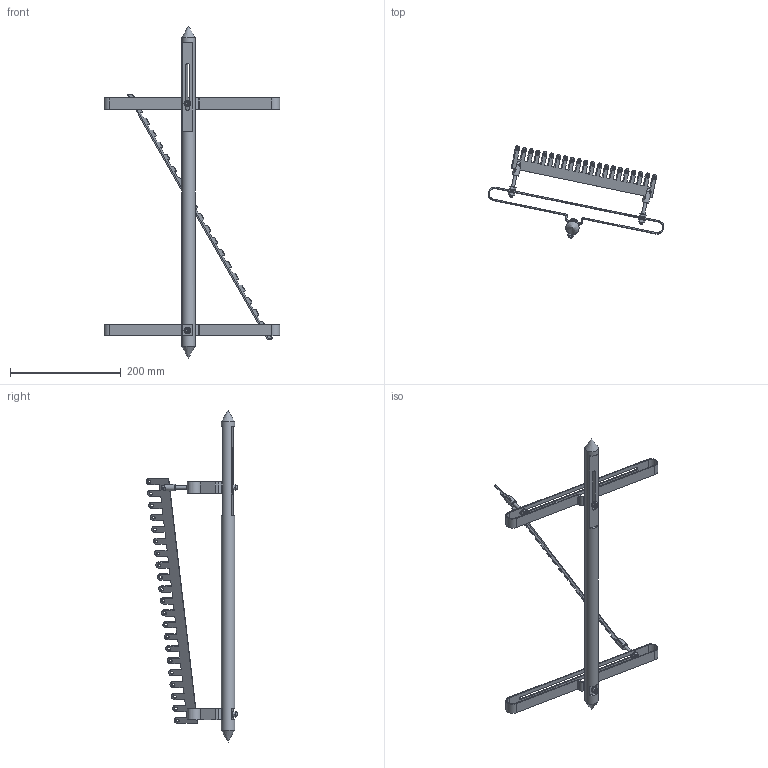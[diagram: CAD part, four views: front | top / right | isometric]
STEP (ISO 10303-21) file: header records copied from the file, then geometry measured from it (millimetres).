
FILE_DESCRIPTION(/* description */ (''),/* implementation_level */ '2;1');
FILE_NAME(/* name */ 'D:\SFC\3-Autodesk\2014-01-30 GrabCAD\23 - Mecanism trasare hiperboloid\Hyperboloid Drawing Mechanism.stp',/* time_stamp */ '2015-04-28T10:32:03+03:00',/* author */ ('SFC'),/* organization */ (''),/* preprocessor_version */ 'ST-DEVELOPER v15.2',/* originating_system */ 'Autodesk Inventor 2014',/* authorisation */ '');
FILE_SCHEMA (('AUTOMOTIVE_DESIGN { 1 0 10303 214 3 1 1 }'));
Length unit declared in the file: millimetre
Products named in the file (9): Multi-hole plate; Threaded rod; Pin; Central Shaft; Adjustable Stand; ISO 7045 - M6 x 30 - 4.8 - HISO; ISO 7090 - 6 - 140 HV(1); ISO 4032 - M6ISO; Hyperboloid Drawing Mechanism
Assembly tree (22 placements, depth 2):
  Hyperboloid Drawing Mechanism
    Multi-hole plate
    Threaded rod  x2
    Pin  x2
    Central Shaft
    Adjustable Stand  x2
    ISO 7045 - M6 x 30 - 4.8 - HISO  x2
    ISO 7090 - 6 - 140 HV(1)  x6
    ISO 4032 - M6ISO  x6
Bounding box: 317.85 x 166.17 x 600 mm (x, y, z)
Volume: 323203.2 mm3; surface area: 147720.1 mm2
Topology: 22 solids, 22 shells, 403 faces, 1033 edges, 676 vertices
Faces by surface type: plane 213, cylinder 112, cone 62, torus 10, sphere 6
Full cylindrical faces by diameter (mm): 4.917 x6, 5.459 x2, 6 x38, 6.4 x6, 12 x8, 24 x1
Entity records: 7525 total; most frequent: CARTESIAN_POINT 1501, DIRECTION 1234, ORIENTED_EDGE 1126, EDGE_CURVE 563, AXIS2_PLACEMENT_3D 456, VERTEX_POINT 403, EDGE_LOOP 348, LINE 322
